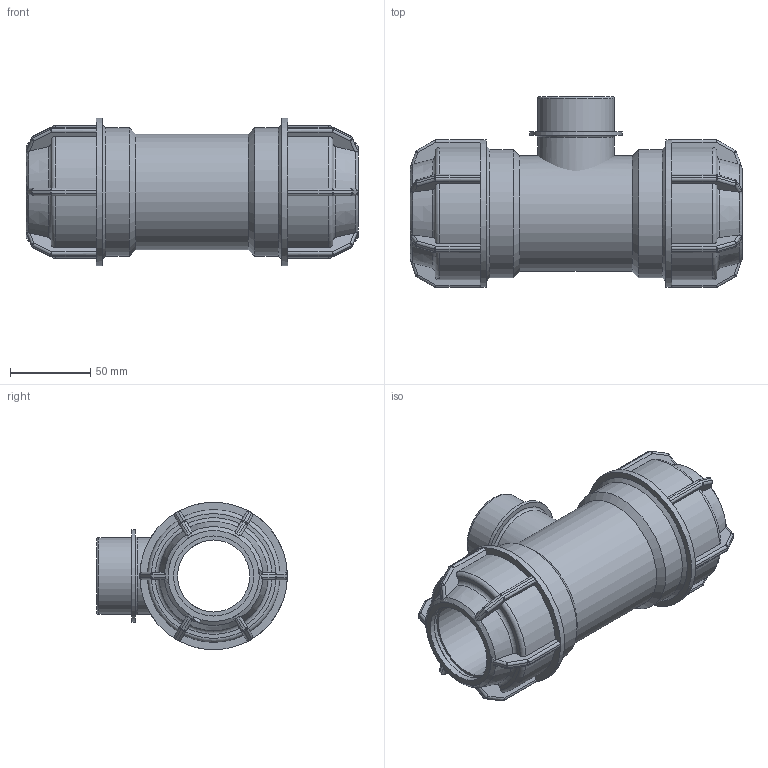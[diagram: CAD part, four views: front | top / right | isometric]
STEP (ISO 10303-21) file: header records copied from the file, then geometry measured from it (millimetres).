
FILE_DESCRIPTION(/* description */ ('PLASSON L.14 TEE MALE ADAPTOR (SILVER) 50-1.1/2"-50'),/* implementation_level */ '2;1');
FILE_NAME(/* name */ 'C:\Dropbox\KIMPROJECTS-Inventor\99-16-3568-Processing\Silver+MF ISRAEL\148400\148400050015.ipt.stp',/* time_stamp */ '2018-04-09T13:05:36+03:00',/* author */ ('KIM'),/* organization */ (''),/* preprocessor_version */ 'ST-DEVELOPER v15.6',/* originating_system */ 'Autodesk Inventor 2015',/* authorisation */ '');
FILE_SCHEMA (('AUTOMOTIVE_DESIGN { 1 0 10303 214 3 1 1 }'));
Length unit declared in the file: millimetre
Products named in the file (1): 148400050015
Bounding box: 207 x 119 x 92 mm (x, y, z)
Volume: 566614.4 mm3; surface area: 114876.2 mm2
Topology: 2 solids, 2 shells, 413 faces, 973 edges, 561 vertices
Faces by surface type: plane 193, cylinder 124, sphere 48, torus 30, cone 18
Full cylindrical faces by diameter (mm): 45 x3, 47.803 x2, 50 x4, 57.364 x1, 72 x1, 80 x2, 92 x2
Entity records: 12127 total; most frequent: CARTESIAN_POINT 3224, DIRECTION 1872, ORIENTED_EDGE 1824, EDGE_CURVE 912, AXIS2_PLACEMENT_3D 756, VERTEX_POINT 540, EDGE_LOOP 450, FACE_OUTER_BOUND 410
